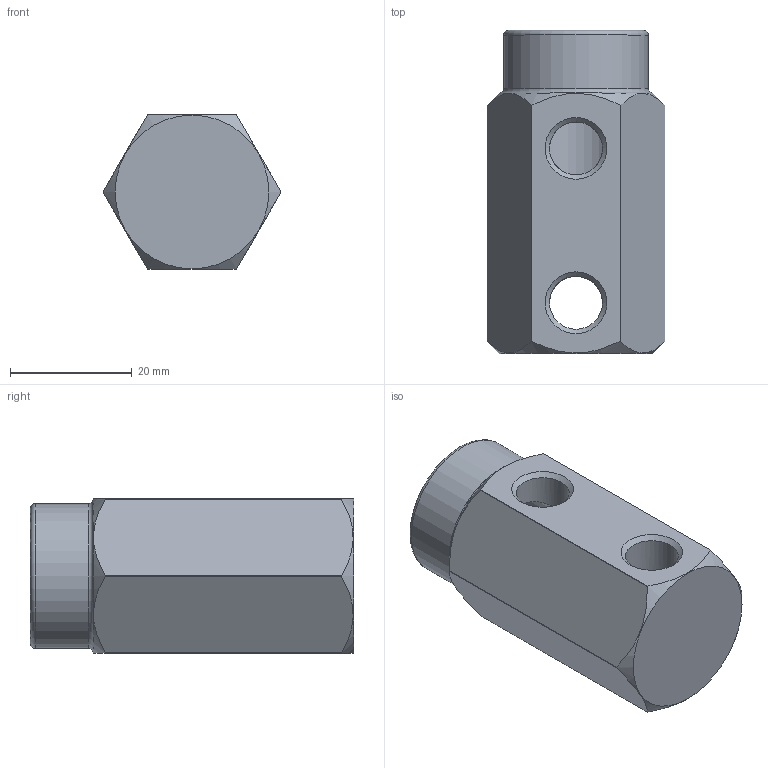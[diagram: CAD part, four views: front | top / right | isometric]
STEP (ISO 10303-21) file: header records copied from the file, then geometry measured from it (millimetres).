
FILE_DESCRIPTION(/* description */ (''),/* implementation_level */ '2;1');
FILE_NAME(/* name */ 'C:/Users/drich/Desktop/381H-HFT v1.step',/* time_stamp */ '2020-01-10T20:26:21-06:00',/* author */ (''),/* organization */ (''),/* preprocessor_version */ 'ST-DEVELOPER v18',/* originating_system */ 'Autodesk Translation Framework v8.12.0.6',/* authorisation */ '');
FILE_SCHEMA (('AUTOMOTIVE_DESIGN { 1 0 10303 214 3 1 1 }'));
Length unit declared in the file: inch
Products named in the file (2): 381H-HFT; 381H
Assembly tree (1 placements, depth 2):
  381H-HFT
    381H
Bounding box: 29.26 x 53.16 x 25.4 mm (x, y, z)
Volume: 20661.6 mm3; surface area: 7620.6 mm2
Topology: 1 solids, 1 shells, 32 faces, 92 edges, 62 vertices
Faces by surface type: cone 11, cylinder 11, plane 8, torus 2
Full cylindrical faces by diameter (mm): 8.509 x1, 8.707 x2, 15.173 x1, 23.8 x1
Entity records: 1238 total; most frequent: CARTESIAN_POINT 348, ORIENTED_EDGE 184, DIRECTION 176, EDGE_CURVE 92, AXIS2_PLACEMENT_3D 76, VERTEX_POINT 62, CIRCLE 41, EDGE_LOOP 38
